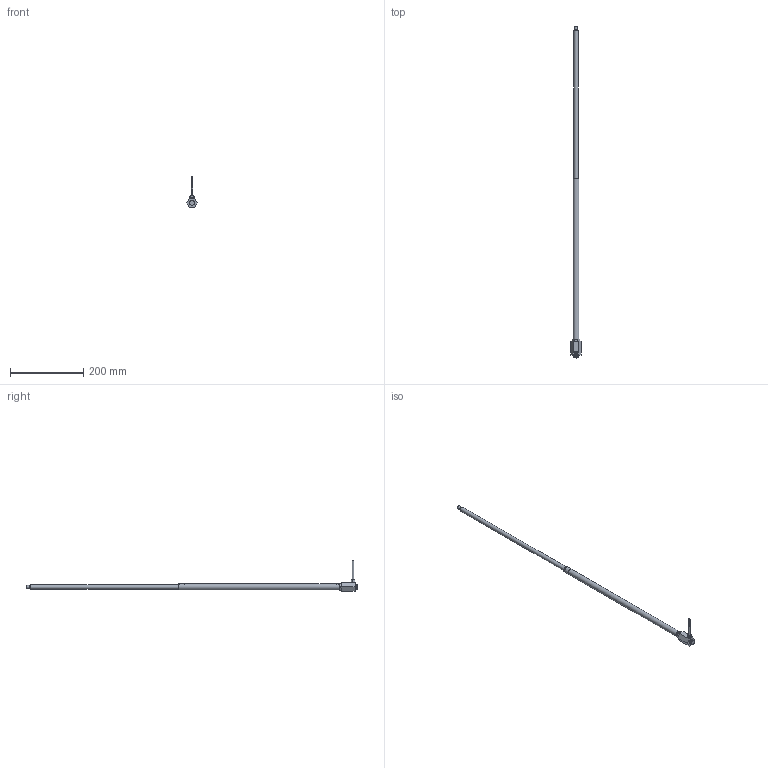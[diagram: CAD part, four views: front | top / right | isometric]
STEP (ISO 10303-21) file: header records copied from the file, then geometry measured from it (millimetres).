
FILE_DESCRIPTION(/* description */ ('Unknown'),/* implementation_level */ '2;1');
FILE_NAME(/* name */ '107.00294 Zylinder CH 1440 V_ausgefahren',/* time_stamp */ '2018-06-21T15:46:25+02:00',/* author */ ('Unknown'),/* organization */ ('Unknown'),/* preprocessor_version */ 'ST-DEVELOPER v16.7',/* originating_system */ 'DEX',/* authorisation */ $);
FILE_SCHEMA (('AUTOMOTIVE_DESIGN {1 0 10303 214 3 1 1}'));
Length unit declared in the file: millimetre
Products named in the file (11): 107.00294; 121.00004; 142.00021; 125.00021; 115.00007_oa_0; 115.00111_oa_1; 125.00245; 125.00226; 120.00024; 122.00001; 113.00002_70mm
Assembly tree (10 placements, depth 3):
  107.00294
    121.00004
    142.00021
    125.00021
    115.00007_oa_0
    115.00111_oa_1
      125.00245
      125.00226
    120.00024
    122.00001
    113.00002_70mm
Bounding box: 27.71 x 904.5 x 83.5 mm (x, y, z)
Volume: 91683.1 mm3; surface area: 68566.9 mm2
Topology: 8 solids, 8 shells, 129 faces, 266 edges, 169 vertices
Faces by surface type: plane 51, cylinder 44, cone 26, torus 7, sphere 1
Full cylindrical faces by diameter (mm): 2.2 x1, 2.99 x1, 3.5 x2, 4 x1, 4.1 x1, 4.2 x1, 5 x1, 6 x1, 6.917 x2, 7.763 x2, 8 x6, 8.1 x3, 8.4 x1, 8.917 x2, 9 x1, 10 x1, 12 x2, 12.5 x1, 13 x3, 13.9 x2, 14 x2, 16 x1
Entity records: 4017 total; most frequent: DIRECTION 562, CARTESIAN_POINT 534, ORIENTED_EDGE 368, AXIS2_PLACEMENT_3D 251, FACE_BOUND 226, EDGE_LOOP 224, EDGE_CURVE 184, VERTEX_POINT 156
